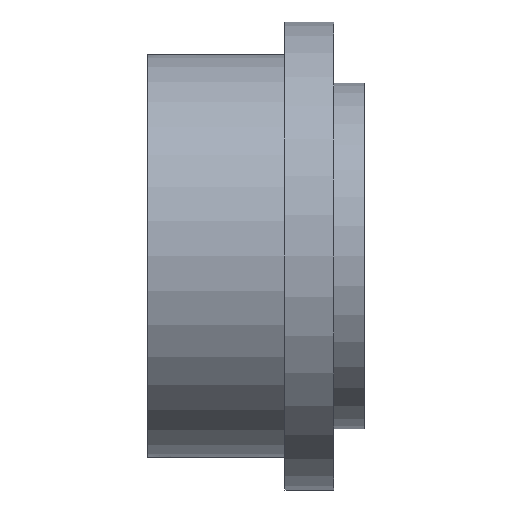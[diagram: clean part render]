
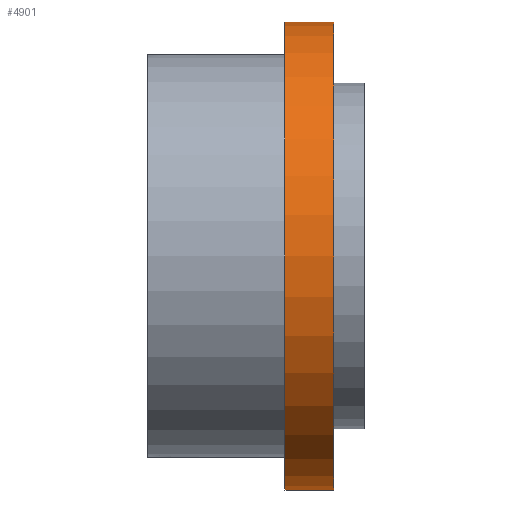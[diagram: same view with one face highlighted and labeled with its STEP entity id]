
A CAD part, left-side view. The second image highlights one B-rep face of the part: STEP entity #4901.
In plain terms, the highlighted cylindrical face has radius 23 mm (diameter 46 mm), a partial arc.
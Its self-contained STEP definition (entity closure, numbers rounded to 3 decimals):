
#218 = PLANE('',#219);
#219 = AXIS2_PLACEMENT_3D('',#220,#221,#222);
#220 = CARTESIAN_POINT('',(0.,0.,0.));
#221 = DIRECTION('',(0.,1.,0.));
#222 = DIRECTION('',(0.,0.,1.));
#1448 = PLANE('',#1449);
#1449 = AXIS2_PLACEMENT_3D('',#1450,#1451,#1452);
#1450 = CARTESIAN_POINT('',(1.,4.8,0.));
#1451 = DIRECTION('',(0.,1.,0.));
#1452 = DIRECTION('',(0.,0.,1.));
#1464 = VERTEX_POINT('',#1465);
#1465 = CARTESIAN_POINT('',(1.,4.8,23.));
#1466 = VERTEX_POINT('',#1467);
#1467 = CARTESIAN_POINT('',(1.,4.8,-23.));
#1475 = CYLINDRICAL_SURFACE('',#1476,23.);
#1476 = AXIS2_PLACEMENT_3D('',#1477,#1478,#1479);
#1477 = CARTESIAN_POINT('',(1.,0.8,0.));
#1478 = DIRECTION('',(0.,-1.,0.));
#1479 = DIRECTION('',(0.,0.,-1.));
#1494 = EDGE_CURVE('',#1464,#1495,#1497,.T.);
#1495 = VERTEX_POINT('',#1496);
#1496 = CARTESIAN_POINT('',(1.,0.,23.));
#1497 = SURFACE_CURVE('',#1498,(#1502,#1509),.PCURVE_S1.);
#1498 = LINE('',#1499,#1500);
#1499 = CARTESIAN_POINT('',(1.,0.8,23.));
#1500 = VECTOR('',#1501,1.);
#1501 = DIRECTION('',(0.,-1.,0.));
#1502 = PCURVE('',#1475,#1503);
#1503 = DEFINITIONAL_REPRESENTATION('',(#1504),#1508);
#1504 = LINE('',#1505,#1506);
#1505 = CARTESIAN_POINT('',(3.142,0.));
#1506 = VECTOR('',#1507,1.);
#1507 = DIRECTION('',(0.,1.));
#1508 = ( GEOMETRIC_REPRESENTATION_CONTEXT(2) 
PARAMETRIC_REPRESENTATION_CONTEXT() REPRESENTATION_CONTEXT('2D SPACE',''
  ) );
#1509 = PCURVE('',#1510,#1515);
#1510 = CYLINDRICAL_SURFACE('',#1511,23.);
#1511 = AXIS2_PLACEMENT_3D('',#1512,#1513,#1514);
#1512 = CARTESIAN_POINT('',(1.,0.8,0.));
#1513 = DIRECTION('',(0.,-1.,0.));
#1514 = DIRECTION('',(0.,0.,-1.));
#1515 = DEFINITIONAL_REPRESENTATION('',(#1516),#1520);
#1516 = LINE('',#1517,#1518);
#1517 = CARTESIAN_POINT('',(3.142,0.));
#1518 = VECTOR('',#1519,1.);
#1519 = DIRECTION('',(0.,1.));
#1520 = ( GEOMETRIC_REPRESENTATION_CONTEXT(2) 
PARAMETRIC_REPRESENTATION_CONTEXT() REPRESENTATION_CONTEXT('2D SPACE',''
  ) );
#1523 = VERTEX_POINT('',#1524);
#1524 = CARTESIAN_POINT('',(1.,0.,-23.));
#1550 = EDGE_CURVE('',#1466,#1523,#1551,.T.);
#1551 = SURFACE_CURVE('',#1552,(#1556,#1563),.PCURVE_S1.);
#1552 = LINE('',#1553,#1554);
#1553 = CARTESIAN_POINT('',(1.,0.8,-23.));
#1554 = VECTOR('',#1555,1.);
#1555 = DIRECTION('',(0.,-1.,0.));
#1556 = PCURVE('',#1475,#1557);
#1557 = DEFINITIONAL_REPRESENTATION('',(#1558),#1562);
#1558 = LINE('',#1559,#1560);
#1559 = CARTESIAN_POINT('',(0.,0.));
#1560 = VECTOR('',#1561,1.);
#1561 = DIRECTION('',(0.,1.));
#1562 = ( GEOMETRIC_REPRESENTATION_CONTEXT(2) 
PARAMETRIC_REPRESENTATION_CONTEXT() REPRESENTATION_CONTEXT('2D SPACE',''
  ) );
#1563 = PCURVE('',#1510,#1564);
#1564 = DEFINITIONAL_REPRESENTATION('',(#1565),#1569);
#1565 = LINE('',#1566,#1567);
#1566 = CARTESIAN_POINT('',(6.283,0.));
#1567 = VECTOR('',#1568,1.);
#1568 = DIRECTION('',(0.,1.));
#1569 = ( GEOMETRIC_REPRESENTATION_CONTEXT(2) 
PARAMETRIC_REPRESENTATION_CONTEXT() REPRESENTATION_CONTEXT('2D SPACE',''
  ) );
#3674 = EDGE_CURVE('',#1495,#1523,#3675,.T.);
#3675 = SURFACE_CURVE('',#3676,(#3681,#3692),.PCURVE_S1.);
#3676 = CIRCLE('',#3677,23.);
#3677 = AXIS2_PLACEMENT_3D('',#3678,#3679,#3680);
#3678 = CARTESIAN_POINT('',(1.,0.,0.));
#3679 = DIRECTION('',(0.,-1.,0.));
#3680 = DIRECTION('',(0.,0.,-1.));
#3681 = PCURVE('',#218,#3682);
#3682 = DEFINITIONAL_REPRESENTATION('',(#3683),#3691);
#3683 = ( BOUNDED_CURVE() B_SPLINE_CURVE(2,(#3684,#3685,#3686,#3687,
#3688,#3689,#3690),.UNSPECIFIED.,.T.,.F.) B_SPLINE_CURVE_WITH_KNOTS((1,2
    ,2,2,2,1),(-2.094,0.,2.094,4.189,
6.283,8.378),.UNSPECIFIED.) CURVE() 
GEOMETRIC_REPRESENTATION_ITEM() RATIONAL_B_SPLINE_CURVE((1.,0.5,1.,0.5,
1.,0.5,1.)) REPRESENTATION_ITEM('') );
#3684 = CARTESIAN_POINT('',(-23.,1.));
#3685 = CARTESIAN_POINT('',(-23.,40.837));
#3686 = CARTESIAN_POINT('',(11.5,20.919));
#3687 = CARTESIAN_POINT('',(46.,1.));
#3688 = CARTESIAN_POINT('',(11.5,-18.919));
#3689 = CARTESIAN_POINT('',(-23.,-38.837));
#3690 = CARTESIAN_POINT('',(-23.,1.));
#3691 = ( GEOMETRIC_REPRESENTATION_CONTEXT(2) 
PARAMETRIC_REPRESENTATION_CONTEXT() REPRESENTATION_CONTEXT('2D SPACE',''
  ) );
#3692 = PCURVE('',#1510,#3693);
#3693 = DEFINITIONAL_REPRESENTATION('',(#3694),#3698);
#3694 = LINE('',#3695,#3696);
#3695 = CARTESIAN_POINT('',(0.,0.8));
#3696 = VECTOR('',#3697,1.);
#3697 = DIRECTION('',(1.,0.));
#3698 = ( GEOMETRIC_REPRESENTATION_CONTEXT(2) 
PARAMETRIC_REPRESENTATION_CONTEXT() REPRESENTATION_CONTEXT('2D SPACE',''
  ) );
#4901 = ADVANCED_FACE('',(#4902),#1510,.T.);
#4902 = FACE_BOUND('',#4903,.T.);
#4903 = EDGE_LOOP('',(#4904,#4905,#4927,#4928));
#4904 = ORIENTED_EDGE('',*,*,#1494,.F.);
#4905 = ORIENTED_EDGE('',*,*,#4906,.F.);
#4906 = EDGE_CURVE('',#1466,#1464,#4907,.T.);
#4907 = SURFACE_CURVE('',#4908,(#4913,#4920),.PCURVE_S1.);
#4908 = CIRCLE('',#4909,23.);
#4909 = AXIS2_PLACEMENT_3D('',#4910,#4911,#4912);
#4910 = CARTESIAN_POINT('',(1.,4.8,0.));
#4911 = DIRECTION('',(0.,1.,0.));
#4912 = DIRECTION('',(0.,0.,1.));
#4913 = PCURVE('',#1510,#4914);
#4914 = DEFINITIONAL_REPRESENTATION('',(#4915),#4919);
#4915 = LINE('',#4916,#4917);
#4916 = CARTESIAN_POINT('',(9.425,-4.));
#4917 = VECTOR('',#4918,1.);
#4918 = DIRECTION('',(-1.,0.));
#4919 = ( GEOMETRIC_REPRESENTATION_CONTEXT(2) 
PARAMETRIC_REPRESENTATION_CONTEXT() REPRESENTATION_CONTEXT('2D SPACE',''
  ) );
#4920 = PCURVE('',#1448,#4921);
#4921 = DEFINITIONAL_REPRESENTATION('',(#4922),#4926);
#4922 = CIRCLE('',#4923,23.);
#4923 = AXIS2_PLACEMENT_2D('',#4924,#4925);
#4924 = CARTESIAN_POINT('',(0.,0.));
#4925 = DIRECTION('',(1.,0.));
#4926 = ( GEOMETRIC_REPRESENTATION_CONTEXT(2) 
PARAMETRIC_REPRESENTATION_CONTEXT() REPRESENTATION_CONTEXT('2D SPACE',''
  ) );
#4927 = ORIENTED_EDGE('',*,*,#1550,.T.);
#4928 = ORIENTED_EDGE('',*,*,#3674,.F.);
